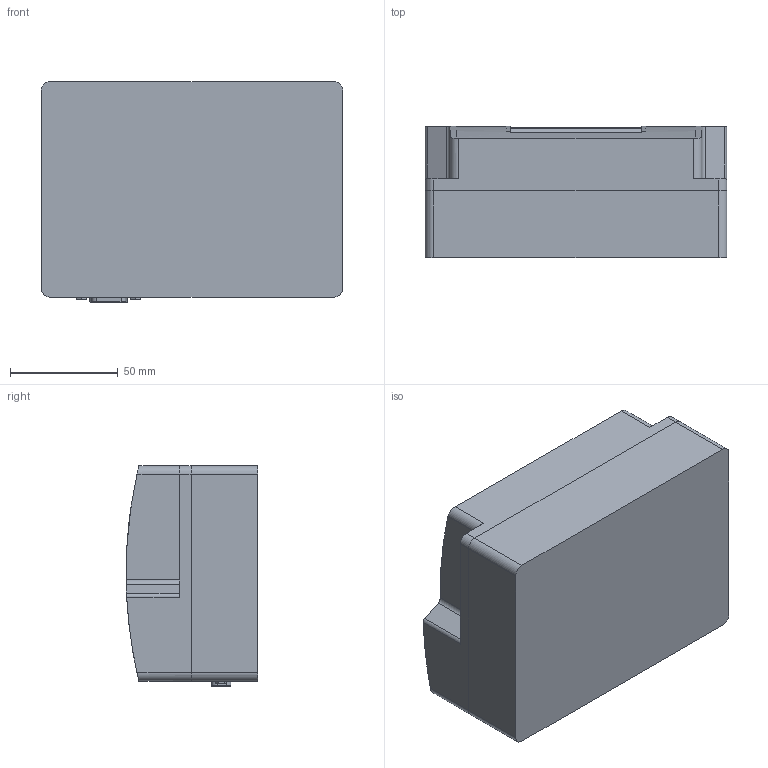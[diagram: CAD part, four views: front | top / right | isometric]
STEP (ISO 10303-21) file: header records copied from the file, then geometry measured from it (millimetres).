
FILE_DESCRIPTION(('STEP AP214'), '1');
FILE_NAME('ﾂﾊﾒ-7', '', ('UNSPECIFIED'), ('UNSPECIFIED'), 'C3D Converter', 'C3D Toolkit', '');
FILE_SCHEMA(('AUTOMOTIVE_DESIGN { 1 0 10303 214 3 1 1}'));
Length unit declared in the file: millimetre
Bounding box: 140 x 61.18 x 102.4 mm (x, y, z)
Surface area: 58077.1 mm2 (no closed solid volume)
Topology: 0 solids, 15 shells, 197 faces, 504 edges, 328 vertices
Faces by surface type: plane 83, cylinder 73, cone 33, torus 8
Full cylindrical faces by diameter (mm): 0.8 x9, 2.35 x2
Entity records: 10412 total; most frequent: CARTESIAN_POINT 3892, DIRECTION 978, ORIENTED_EDGE 863, EDGE_CURVE 472, AXIS2_PLACEMENT_3D 386, VERTEX_POINT 326, EDGE_LOOP 241, COLOUR_RGB 212
